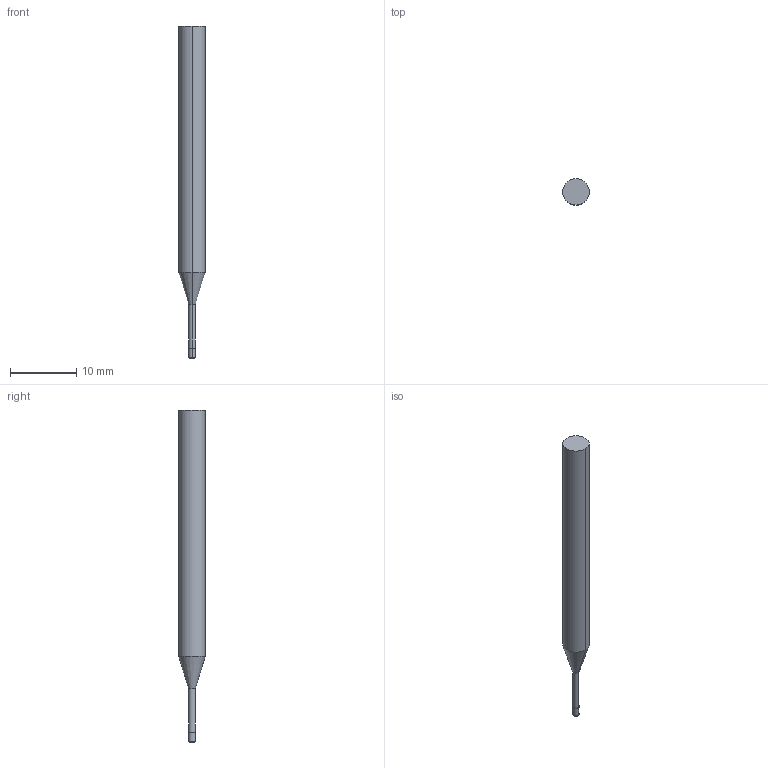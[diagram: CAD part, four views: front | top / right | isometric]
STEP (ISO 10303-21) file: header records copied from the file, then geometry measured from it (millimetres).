
FILE_DESCRIPTION((' '),'2;1');
FILE_NAME( '3MVSM0100R.10N8AH.stp', '2026-01-21T19:27:16', (' '), ('--- Datakit www.datakit.com---'), ' Datakit CrossCadWare V2025.4 Sep 19 2025', 'Mastercam 2027', ' ');
FILE_SCHEMA(('AUTOMOTIVE_DESIGN { 1 0 10303 214 1 1 1 1 }'));
Length unit declared in the file: inch
Products named in the file (1): 3MVSM0100R
Bounding box: 4 x 4 x 50 mm (x, y, z)
Volume: 499.5 mm3; surface area: 544.9 mm2
Topology: 1 solids, 1 shells, 12 faces, 22 edges, 12 vertices
Faces by surface type: cylinder 6, plane 2, torus 2, cone 2
Entity records: 377 total; most frequent: DIRECTION 70, CARTESIAN_POINT 51, ORIENTED_EDGE 44, AXIS2_PLACEMENT_3D 31, EDGE_CURVE 22, CIRCLE 14, VERTEX_POINT 12, EDGE_LOOP 12
